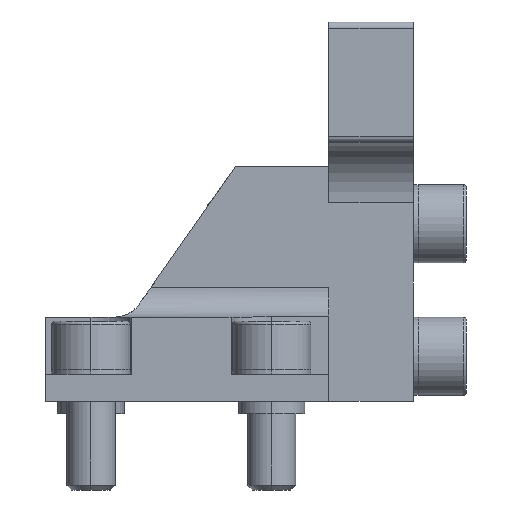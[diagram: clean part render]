
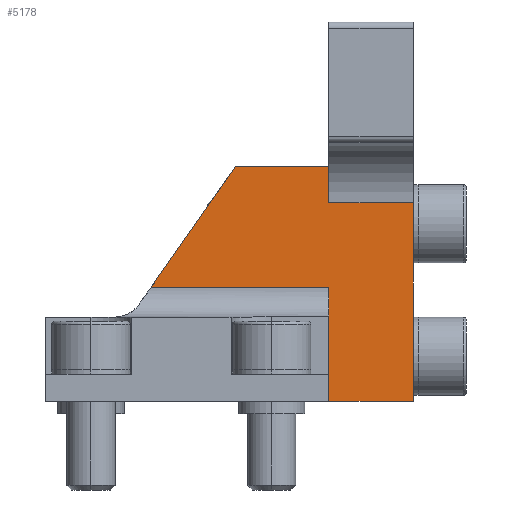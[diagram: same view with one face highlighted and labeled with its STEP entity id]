
A CAD part, left-side view. The second image highlights one B-rep face of the part: STEP entity #5178.
In plain terms, the highlighted planar face has unit normal (-1, 0, 0).
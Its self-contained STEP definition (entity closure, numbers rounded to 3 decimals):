
#22 = DIRECTION ( 'NONE',  ( 1., 0., 0. ) ) ;
#44 = ORIENTED_EDGE ( 'NONE', *, *, #6002, .F. ) ;
#59 = ORIENTED_EDGE ( 'NONE', *, *, #685, .T. ) ;
#63 = CARTESIAN_POINT ( 'NONE',  ( -8., 14., 33. ) ) ;
#65 = CARTESIAN_POINT ( 'NONE',  ( -8., 45.5, 16.132 ) ) ;
#104 = ORIENTED_EDGE ( 'NONE', *, *, #5631, .T. ) ;
#685 = EDGE_CURVE ( 'NONE', #1525, #4879, #6122, .T. ) ;
#699 = EDGE_CURVE ( 'NONE', #6067, #1583, #1864, .T. ) ;
#795 = DIRECTION ( 'NONE',  ( 0., 0., -1. ) ) ;
#1296 = LINE ( 'NONE', #3683, #3721 ) ;
#1411 = CARTESIAN_POINT ( 'NONE',  ( -8., 14., 62.695 ) ) ;
#1422 = ORIENTED_EDGE ( 'NONE', *, *, #7265, .F. ) ;
#1525 = VERTEX_POINT ( 'NONE', #4131 ) ;
#1571 = EDGE_CURVE ( 'NONE', #3376, #3245, #3235, .T. ) ;
#1583 = VERTEX_POINT ( 'NONE', #6898 ) ;
#1605 = VECTOR ( 'NONE', #3352, 1000. ) ;
#1864 = LINE ( 'NONE', #3110, #6678 ) ;
#1938 = DIRECTION ( 'NONE',  ( 0., -0.574, 0.819 ) ) ;
#2115 = VECTOR ( 'NONE', #795, 1000. ) ;
#2469 = EDGE_CURVE ( 'NONE', #6067, #5184, #3836, .T. ) ;
#2680 = CARTESIAN_POINT ( 'NONE',  ( -8., 14., 19. ) ) ;
#2821 = VERTEX_POINT ( 'NONE', #6443 ) ;
#3073 = DIRECTION ( 'NONE',  ( 0., -1., 0. ) ) ;
#3076 = PLANE ( 'NONE',  #6289 ) ;
#3110 = CARTESIAN_POINT ( 'NONE',  ( -8., 19., 39. ) ) ;
#3119 = VECTOR ( 'NONE', #3073, 1000. ) ;
#3154 = LINE ( 'NONE', #4887, #6586 ) ;
#3235 = LINE ( 'NONE', #6315, #7837 ) ;
#3245 = VERTEX_POINT ( 'NONE', #2680 ) ;
#3308 = DIRECTION ( 'NONE',  ( 0., -1., 0. ) ) ;
#3352 = DIRECTION ( 'NONE',  ( 0., 0., 1. ) ) ;
#3376 = VERTEX_POINT ( 'NONE', #5263 ) ;
#3447 = CARTESIAN_POINT ( 'NONE',  ( -8., 0., 39. ) ) ;
#3683 = CARTESIAN_POINT ( 'NONE',  ( -8., 14., 39. ) ) ;
#3705 = DIRECTION ( 'NONE',  ( 0., 0., -1. ) ) ;
#3721 = VECTOR ( 'NONE', #7343, 1000. ) ;
#3836 = LINE ( 'NONE', #1411, #2115 ) ;
#4033 = ORIENTED_EDGE ( 'NONE', *, *, #699, .T. ) ;
#4131 = CARTESIAN_POINT ( 'NONE',  ( -8., 14., 0.001 ) ) ;
#4389 = EDGE_CURVE ( 'NONE', #3245, #1525, #1296, .T. ) ;
#4473 = ORIENTED_EDGE ( 'NONE', *, *, #1571, .T. ) ;
#4563 = VECTOR ( 'NONE', #1938, 1000. ) ;
#4847 = DIRECTION ( 'NONE',  ( 0., 1., 0. ) ) ;
#4879 = VERTEX_POINT ( 'NONE', #6644 ) ;
#4887 = CARTESIAN_POINT ( 'NONE',  ( -8., 72.31, 33. ) ) ;
#5178 = ADVANCED_FACE ( 'NONE', ( #6126 ), #3076, .F. ) ;
#5184 = VERTEX_POINT ( 'NONE', #63 ) ;
#5263 = CARTESIAN_POINT ( 'NONE',  ( -8., 43.492, 19. ) ) ;
#5331 = EDGE_LOOP ( 'NONE', ( #104, #44, #6120, #4033, #1422, #4473, #6144, #59 ) ) ;
#5528 = CARTESIAN_POINT ( 'NONE',  ( -8., 19., 62.695 ) ) ;
#5631 = EDGE_CURVE ( 'NONE', #4879, #2821, #6476, .T. ) ;
#6002 = EDGE_CURVE ( 'NONE', #5184, #2821, #3154, .T. ) ;
#6067 = VERTEX_POINT ( 'NONE', #6345 ) ;
#6120 = ORIENTED_EDGE ( 'NONE', *, *, #2469, .F. ) ;
#6122 = LINE ( 'NONE', #7224, #3119 ) ;
#6126 = FACE_OUTER_BOUND ( 'NONE', #5331, .T. ) ;
#6144 = ORIENTED_EDGE ( 'NONE', *, *, #4389, .T. ) ;
#6289 = AXIS2_PLACEMENT_3D ( 'NONE', #5528, #22, #3705 ) ;
#6315 = CARTESIAN_POINT ( 'NONE',  ( -8., 19., 19. ) ) ;
#6345 = CARTESIAN_POINT ( 'NONE',  ( -8., 14., 39. ) ) ;
#6443 = CARTESIAN_POINT ( 'NONE',  ( -8., 0., 33. ) ) ;
#6476 = LINE ( 'NONE', #3447, #1605 ) ;
#6586 = VECTOR ( 'NONE', #7296, 1000. ) ;
#6644 = CARTESIAN_POINT ( 'NONE',  ( -8., 0., 0.001 ) ) ;
#6678 = VECTOR ( 'NONE', #4847, 1000. ) ;
#6898 = CARTESIAN_POINT ( 'NONE',  ( -8., 29.488, 39. ) ) ;
#7224 = CARTESIAN_POINT ( 'NONE',  ( -8., 81.476, 0.001 ) ) ;
#7265 = EDGE_CURVE ( 'NONE', #3376, #1583, #7368, .T. ) ;
#7296 = DIRECTION ( 'NONE',  ( 0., -1., 0. ) ) ;
#7343 = DIRECTION ( 'NONE',  ( 0., 0., -1. ) ) ;
#7368 = LINE ( 'NONE', #65, #4563 ) ;
#7837 = VECTOR ( 'NONE', #3308, 1000. ) ;
